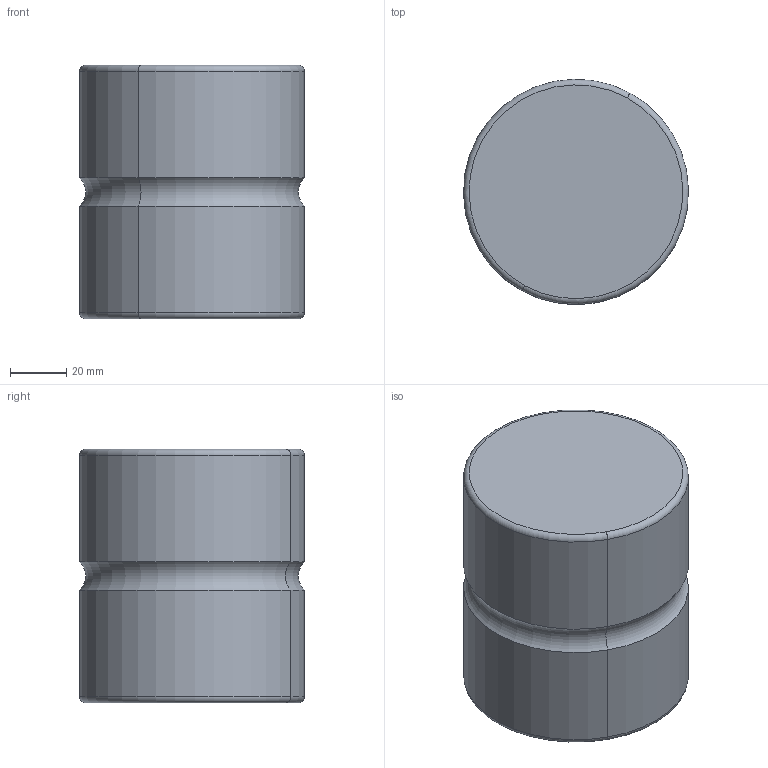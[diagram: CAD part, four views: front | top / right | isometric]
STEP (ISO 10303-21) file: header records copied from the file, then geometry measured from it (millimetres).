
FILE_DESCRIPTION(('CATIA V5 STEP Exchange'),'2;1');
FILE_NAME('C:\Users\d.catalano\Desktop\CATALOGO CAD\04 MOLLE\A519\A519-80.stp','2021-11-26T15:01:41+00:00',('none'),('none'),'CATIA Version 5 Release 19 SP 3 (IN-10)','CATIA V5 STEP AP203','none');
FILE_SCHEMA(('CONFIG_CONTROL_DESIGN'));
Length unit declared in the file: millimetre
Products named in the file (1): A519-80
Bounding box: 79.98 x 79.98 x 90 mm (x, y, z)
Volume: 448156.8 mm3; surface area: 32440.9 mm2
Topology: 1 solids, 1 shells, 12 faces, 22 edges, 12 vertices
Faces by surface type: torus 6, cylinder 4, plane 2
Entity records: 294 total; most frequent: ORIENTED_EDGE 44, CARTESIAN_POINT 41, DIRECTION 34, AXIS2_PLACEMENT_3D 25, EDGE_CURVE 22, CIRCLE 18, ADVANCED_FACE 12, EDGE_LOOP 12
